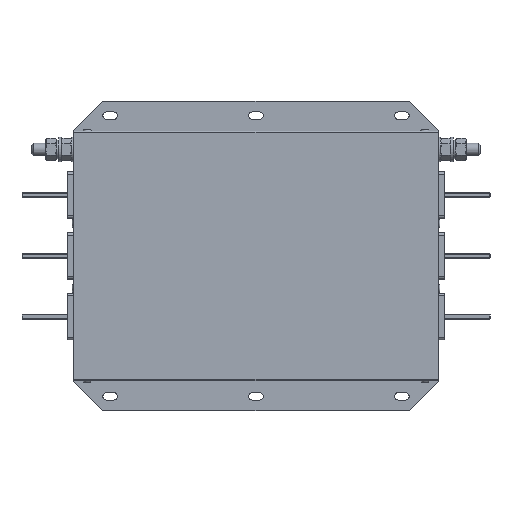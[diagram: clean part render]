
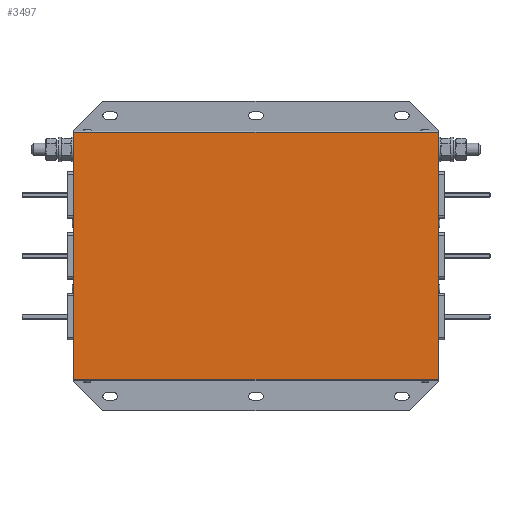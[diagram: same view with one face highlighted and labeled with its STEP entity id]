
A CAD part, top view. The second image highlights one B-rep face of the part: STEP entity #3497.
In plain terms, the highlighted planar face has unit normal (0, 0, 1).
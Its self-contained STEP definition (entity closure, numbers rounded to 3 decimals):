
#3497=ADVANCED_FACE('',(#7268),#7270,.T.);
#7268=FACE_BOUND('',#7269,.T.);
#7269=EDGE_LOOP('',(#8795,#8796,#8797,#8798));
#7270=PLANE('',#7271);
#7271=AXIS2_PLACEMENT_3D('',#7272,#7273,#7274);
#7272=CARTESIAN_POINT('',(0.,0.,1.));
#7273=DIRECTION('',(0.,0.,1.));
#7274=DIRECTION('',(1.,0.,0.));
#8795=ORIENTED_EDGE('',*,*,#9553,.T.);
#8796=ORIENTED_EDGE('',*,*,#9567,.T.);
#8797=ORIENTED_EDGE('',*,*,#9561,.T.);
#8798=ORIENTED_EDGE('',*,*,#9568,.T.);
#9553=EDGE_CURVE('',#10814,#10812,#10815,.T.);
#9561=EDGE_CURVE('',#10826,#10824,#10827,.T.);
#9567=EDGE_CURVE('',#10812,#10826,#10833,.T.);
#9568=EDGE_CURVE('',#10824,#10814,#10834,.T.);
#10812=VERTEX_POINT('',#14504);
#10814=VERTEX_POINT('',#14509);
#10815=LINE('',#14510,#14511);
#10824=VERTEX_POINT('',#14536);
#10826=VERTEX_POINT('',#14541);
#10827=LINE('',#14542,#14543);
#10833=LINE('',#14561,#14562);
#10834=LINE('',#14564,#14565);
#14504=CARTESIAN_POINT('',(150.,-101.5,1.));
#14509=CARTESIAN_POINT('',(-150.,-101.5,1.));
#14510=CARTESIAN_POINT('',(-150.,-101.5,1.));
#14511=VECTOR('',#14512,1.);
#14512=DIRECTION('',(1.,0.,0.));
#14536=CARTESIAN_POINT('',(-150.,101.5,1.));
#14541=CARTESIAN_POINT('',(150.,101.5,1.));
#14542=CARTESIAN_POINT('',(150.,101.5,1.));
#14543=VECTOR('',#14544,1.);
#14544=DIRECTION('',(-1.,0.,0.));
#14561=CARTESIAN_POINT('',(150.,-101.5,1.));
#14562=VECTOR('',#14563,1.);
#14563=DIRECTION('',(0.,1.,0.));
#14564=CARTESIAN_POINT('',(-150.,101.5,1.));
#14565=VECTOR('',#14566,1.);
#14566=DIRECTION('',(0.,-1.,0.));
